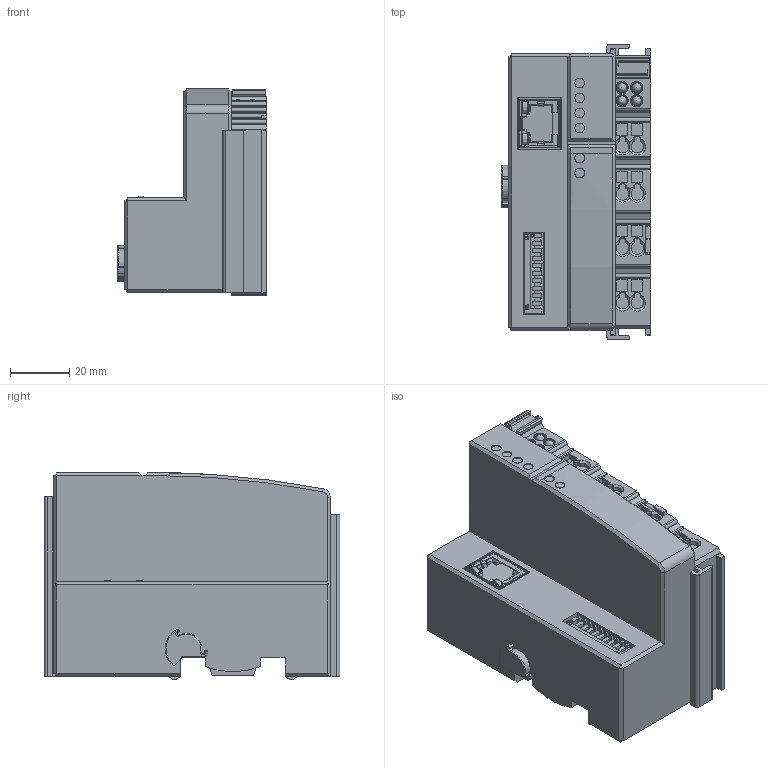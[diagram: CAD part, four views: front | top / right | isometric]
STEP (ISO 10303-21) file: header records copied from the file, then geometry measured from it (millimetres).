
FILE_DESCRIPTION(/* description */ ('Bus-Controller/-coupler 51mm 1 x RJ45 8 pin ID-Switch'),/* implementation_level */ '2;1');
FILE_NAME(/* name */ 'E:\bus-controller_coupler_51mm_1xrj45_8pin_id-switch.stp',/* time_stamp */ '2021-03-02T13:15:50+01:00',/* author */ (''),/* organization */ (''),/* preprocessor_version */ 'ST-DEVELOPER v18.1',/* originating_system */ 'Autodesk Inventor 2020',/* authorisation */ '');
FILE_SCHEMA (('CONFIG_CONTROL_DESIGN'));
Length unit declared in the file: millimetre
Products named in the file (1): 0000004086_Bus_Controller_Koppler_51mm_1xRJ45_8pin_ID_Switch
Bounding box: 50.5 x 100 x 70 mm (x, y, z)
Volume: 222342.2 mm3; surface area: 32787.9 mm2
Topology: 1 solids, 2 shells, 735 faces, 1963 edges, 1243 vertices
Faces by surface type: plane 529, cylinder 117, bspline 39, cone 24, sphere 19, torus 7
Full cylindrical faces by diameter (mm): 3 x4, 3.3 x6, 3.6 x4, 4.2 x4
Entity records: 24375 total; most frequent: CARTESIAN_POINT 5350, ORIENTED_EDGE 3894, DIRECTION 3586, EDGE_CURVE 1947, LINE 1500, VECTOR 1500, VERTEX_POINT 1243, AXIS2_PLACEMENT_3D 1043
